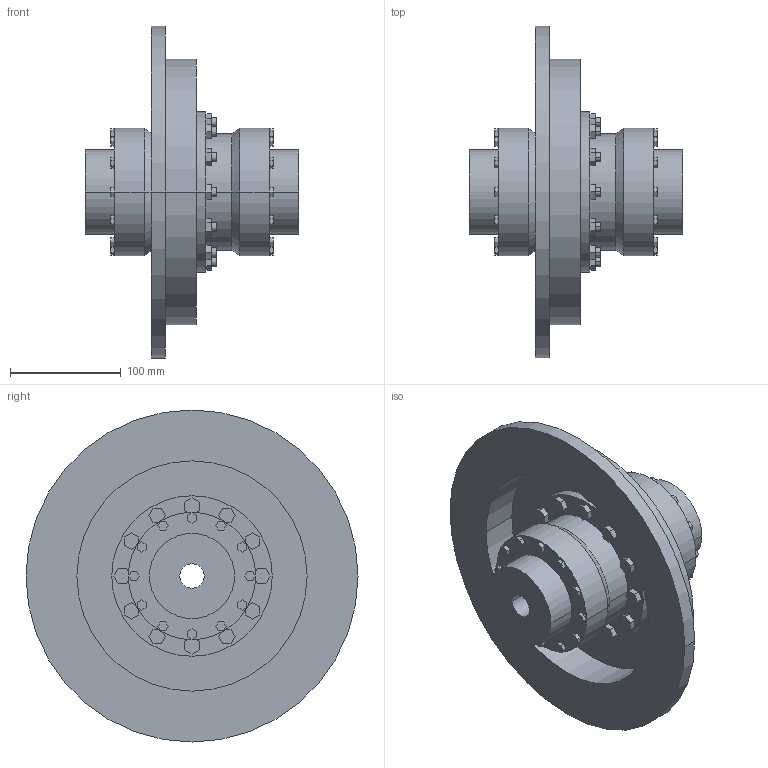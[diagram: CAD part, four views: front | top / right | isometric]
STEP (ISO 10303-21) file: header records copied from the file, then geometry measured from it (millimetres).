
FILE_DESCRIPTION((''),'2;1');
FILE_NAME('A19723800-0_ASM','2019-05-23T',('AB_Roschiwal'),('RENK AG'),'PRO/ENGINEER BY PARAMETRIC TECHNOLOGY CORPORATION, 2015440','PRO/ENGINEER BY PARAMETRIC TECHNOLOGY CORPORATION, 2015440','');
FILE_SCHEMA(('CONFIG_CONTROL_DESIGN'));
Length unit declared in the file: millimetre
Products named in the file (4): SBKT48_GEHAEUSE; SBKT48_NABE; SBKT48_BREMSSCHEIBE; A19723800-0_ASM
Assembly tree (4 placements, depth 2):
  A19723800-0_ASM
    SBKT48_GEHAEUSE
    SBKT48_NABE  x2
    SBKT48_BREMSSCHEIBE
Bounding box: 193 x 300 x 300 mm (x, y, z)
Volume: 2191463.3 mm3; surface area: 404949.8 mm2
Topology: 4 solids, 4 shells, 470 faces, 1156 edges, 768 vertices
Faces by surface type: plane 370, cylinder 96, cone 4
Entity records: 13604 total; most frequent: CARTESIAN_POINT 2350, ORIENTED_EDGE 2264, DIRECTION 2240, EDGE_CURVE 1132, VECTOR 956, LINE 956, VERTEX_POINT 752, AXIS2_PLACEMENT_3D 642
